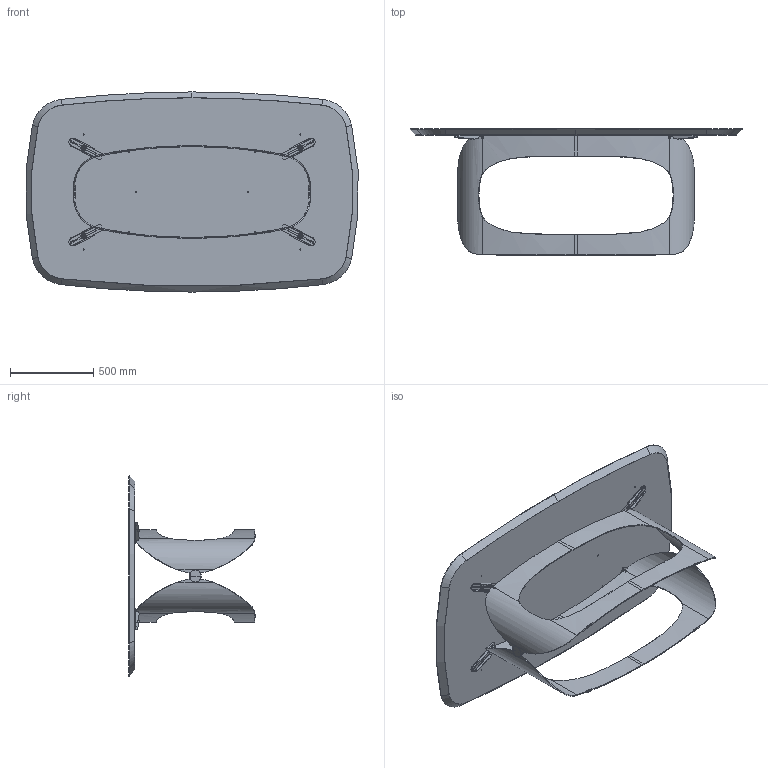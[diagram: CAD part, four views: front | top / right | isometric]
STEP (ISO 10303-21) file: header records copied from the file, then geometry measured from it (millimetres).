
FILE_DESCRIPTION (( 'STEP AP203' ), '1' );
FILE_NAME ('PO41W.STEP', '2024-08-06T14:04:39', ( '' ), ( '' ), 'SwSTEP 2.0', 'SolidWorks 2022', '' );
FILE_SCHEMA (( 'CONFIG_CONTROL_DESIGN' ));
Length unit declared in the file: millimetre
Products named in the file (15): POL000000_03-01-POLIFEMO FREGIO COMPLETO; POL000000_01-01-MEZZA BASE POLIFEMO X PIANI 200-240_POL000000_03-00-MEZZA BASE PLIFEMO L160; POL000000-00-POLIFEMO BASE X PIANI 200-240_POL000000-00-POLIFEMO BASE L160; POL000000_03A-01-POLIFEMO FREGIO; Vite Legno 4xXX testa piana_S4.5x25; PO41W; W4XCMXX-00-Piani Sagomati legno_ 2000 x 1200; POLPIA000V01-00-POLIFEMO PIASTRA X FISSAGGIO TOP LEG-MAR; POL000000_03B-00-POLIFEMO FREGIO; rondella M8_8X32; M8xXXmm_hex_M8X16mm; POL000000_02-02-CILINDRO DI FISSAGGIO Ø12X15 M8; PVC profilo Polifemo 9x8; GRANO M8X35_barra; nut_M8_M8
Assembly tree (41 placements, depth 3):
  PO41W
    POL000000-00-POLIFEMO BASE X PIANI 200-240_POL000000-00-POLIFEMO BASE L160
      POL000000_01-01-MEZZA BASE POLIFEMO X PIANI 200-240_POL000000_03-00-MEZZA BASE PLIFEMO L160  x2
      POL000000_02-02-CILINDRO DI FISSAGGIO Ø12X15 M8  x4
    POL000000_03-01-POLIFEMO FREGIO COMPLETO  x2
      POL000000_03A-01-POLIFEMO FREGIO
      POL000000_03B-00-POLIFEMO FREGIO
    PVC profilo Polifemo 9x8  x4
    POLPIA000V01-00-POLIFEMO PIASTRA X FISSAGGIO TOP LEG-MAR  x4
    M8xXXmm_hex_M8X16mm  x4
    GRANO M8X35_barra  x4
    nut_M8_M8  x4
    rondella M8_8X32  x4
    Vite Legno 4xXX testa piana_S4.5x25  x4
    W4XCMXX-00-Piani Sagomati legno_ 2000 x 1200
Bounding box: 1990.53 x 759.97 x 1200 mm (x, y, z)
Volume: 88899173 mm3; surface area: 7230818.3 mm2
Topology: 41 solids, 41 shells, 1365 faces, 3324 edges, 1961 vertices
Faces by surface type: cylinder 451, plane 404, torus 189, cone 129, bspline 128, sphere 64
Entity records: 27088 total; most frequent: CARTESIAN_POINT 14534, DIRECTION 2184, ORIENTED_EDGE 2104, EDGE_CURVE 1052, AXIS2_PLACEMENT_3D 889, VERTEX_POINT 637, EDGE_LOOP 485, ADVANCED_FACE 455
